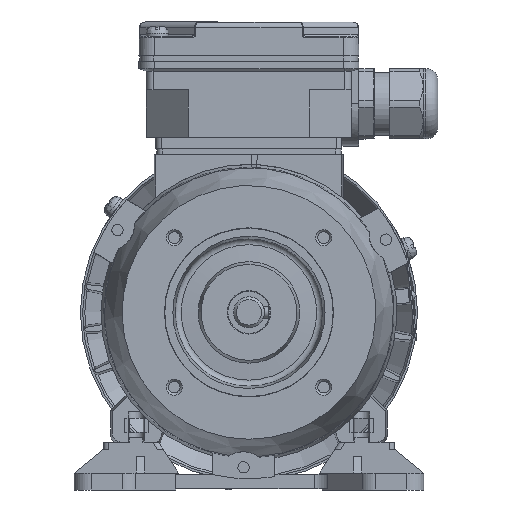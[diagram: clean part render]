
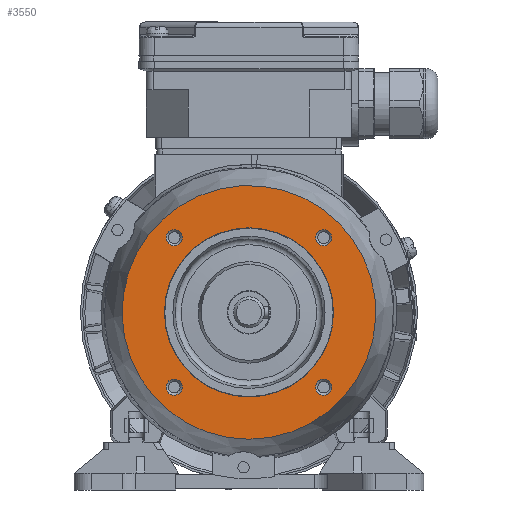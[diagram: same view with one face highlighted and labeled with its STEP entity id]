
A CAD part, left-side view. The second image highlights one B-rep face of the part: STEP entity #3550.
In plain terms, the highlighted planar face has unit normal (-1, 0, 0) as drawn and (0, -1, 0) by its records, which use the part's own axes.
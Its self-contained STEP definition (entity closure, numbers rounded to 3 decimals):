
#3550 = ADVANCED_FACE( '', ( #8068, #8069, #8070, #8071, #8072, #8073 ), #8074, .T. );
#8068 = FACE_BOUND( '', #16433, .T. );
#8069 = FACE_BOUND( '', #16434, .T. );
#8070 = FACE_BOUND( '', #16435, .T. );
#8071 = FACE_BOUND( '', #16436, .T. );
#8072 = FACE_OUTER_BOUND( '', #16437, .T. );
#8073 = FACE_BOUND( '', #16438, .T. );
#8074 = PLANE( '', #16439 );
#16433 = EDGE_LOOP( '', ( #31831 ) );
#16434 = EDGE_LOOP( '', ( #31832 ) );
#16435 = EDGE_LOOP( '', ( #31833 ) );
#16436 = EDGE_LOOP( '', ( #31834 ) );
#16437 = EDGE_LOOP( '', ( #31835 ) );
#16438 = EDGE_LOOP( '', ( #31836 ) );
#16439 = AXIS2_PLACEMENT_3D( '', #31837, #31838, #31839 );
#31831 = ORIENTED_EDGE( '', *, *, #46332, .T. );
#31832 = ORIENTED_EDGE( '', *, *, #46333, .T. );
#31833 = ORIENTED_EDGE( '', *, *, #44228, .T. );
#31834 = ORIENTED_EDGE( '', *, *, #46334, .T. );
#31835 = ORIENTED_EDGE( '', *, *, #46335, .T. );
#31836 = ORIENTED_EDGE( '', *, *, #46336, .F. );
#31837 = CARTESIAN_POINT( '', ( 0., 2.5, 30. ) );
#31838 = DIRECTION( '', ( 0., -1., 0. ) );
#31839 = DIRECTION( '', ( 0., 0., -1. ) );
#44228 = EDGE_CURVE( '', #51886, #51886, #51887, .F. );
#46332 = EDGE_CURVE( '', #55307, #55307, #55308, .F. );
#46333 = EDGE_CURVE( '', #55309, #55309, #55310, .F. );
#46334 = EDGE_CURVE( '', #55311, #55311, #55312, .F. );
#46335 = EDGE_CURVE( '', #55313, #55313, #55314, .T. );
#46336 = EDGE_CURVE( '', #55315, #55315, #55316, .T. );
#51886 = VERTEX_POINT( '', #63759 );
#51887 = CIRCLE( '', #63760, 2.867 );
#55307 = VERTEX_POINT( '', #70632 );
#55308 = CIRCLE( '', #70633, 2.867 );
#55309 = VERTEX_POINT( '', #70634 );
#55310 = CIRCLE( '', #70635, 2.867 );
#55311 = VERTEX_POINT( '', #70636 );
#55312 = CIRCLE( '', #70637, 2.867 );
#55313 = VERTEX_POINT( '', #70638 );
#55314 = CIRCLE( '', #70639, 45. );
#55315 = VERTEX_POINT( '', #70640 );
#55316 = CIRCLE( '', #70641, 30. );
#63759 = CARTESIAN_POINT( '', ( 26.517, 2.5, 23.65 ) );
#63760 = AXIS2_PLACEMENT_3D( '', #81564, #81565, #81566 );
#70632 = CARTESIAN_POINT( '', ( -26.517, 2.5, -29.384 ) );
#70633 = AXIS2_PLACEMENT_3D( '', #84276, #84277, #84278 );
#70634 = CARTESIAN_POINT( '', ( 26.517, 2.5, -29.384 ) );
#70635 = AXIS2_PLACEMENT_3D( '', #84279, #84280, #84281 );
#70636 = CARTESIAN_POINT( '', ( -26.517, 2.5, 23.65 ) );
#70637 = AXIS2_PLACEMENT_3D( '', #84282, #84283, #84284 );
#70638 = CARTESIAN_POINT( '', ( 0., 2.5, -45. ) );
#70639 = AXIS2_PLACEMENT_3D( '', #84285, #84286, #84287 );
#70640 = CARTESIAN_POINT( '', ( 0., 2.5, -30. ) );
#70641 = AXIS2_PLACEMENT_3D( '', #84288, #84289, #84290 );
#81564 = CARTESIAN_POINT( '', ( 26.517, 2.5, 26.517 ) );
#81565 = DIRECTION( '', ( 0., -1., 0. ) );
#81566 = DIRECTION( '', ( 0., 0., -1. ) );
#84276 = CARTESIAN_POINT( '', ( -26.517, 2.5, -26.517 ) );
#84277 = DIRECTION( '', ( 0., -1., 0. ) );
#84278 = DIRECTION( '', ( 0., 0., -1. ) );
#84279 = CARTESIAN_POINT( '', ( 26.517, 2.5, -26.517 ) );
#84280 = DIRECTION( '', ( 0., -1., 0. ) );
#84281 = DIRECTION( '', ( 0., 0., -1. ) );
#84282 = CARTESIAN_POINT( '', ( -26.517, 2.5, 26.517 ) );
#84283 = DIRECTION( '', ( 0., -1., 0. ) );
#84284 = DIRECTION( '', ( 0., 0., -1. ) );
#84285 = CARTESIAN_POINT( '', ( 0., 2.5, 0. ) );
#84286 = DIRECTION( '', ( 0., -1., 0. ) );
#84287 = DIRECTION( '', ( 0., 0., -1. ) );
#84288 = CARTESIAN_POINT( '', ( 0., 2.5, 0. ) );
#84289 = DIRECTION( '', ( 0., -1., 0. ) );
#84290 = DIRECTION( '', ( 0., 0., -1. ) );
